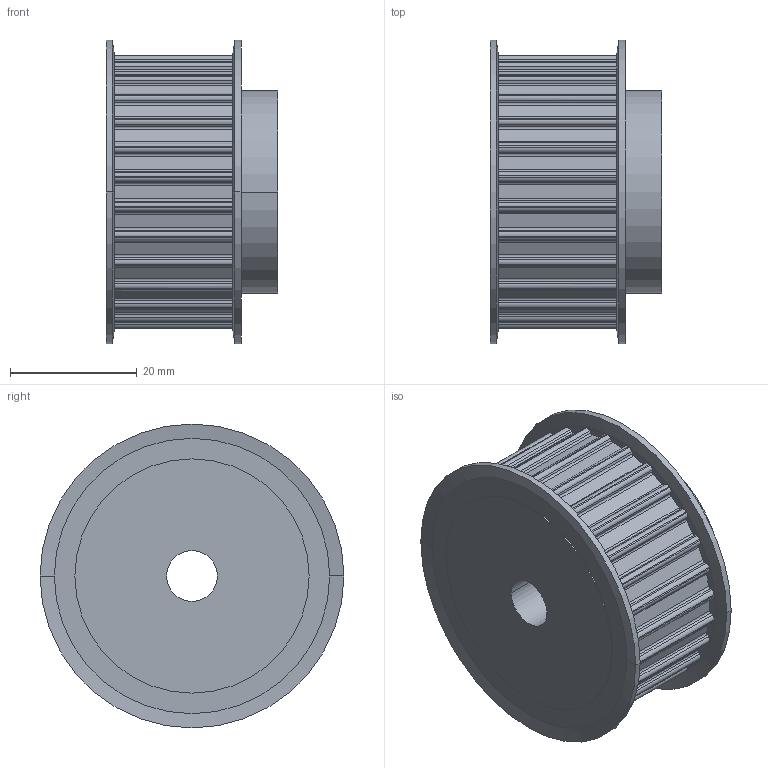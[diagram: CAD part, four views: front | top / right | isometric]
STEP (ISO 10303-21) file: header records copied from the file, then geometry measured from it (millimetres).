
FILE_DESCRIPTION( ( '' ), '1' );
FILE_NAME( 'C:/Users/Stangenbergd/Documents/CAD_Step/1/16632800.stp', '2021-10-19T09:36:33', ( '' ), ( '' ), ' ', ' ', ' ' );
FILE_SCHEMA( ( 'CONFIG_CONTROL_DESIGN' ) );
Length unit declared in the file: millimetre
Products named in the file (1): 1
Bounding box: 27.17 x 48 x 48 mm (x, y, z)
Volume: 33161.7 mm3; surface area: 9048.1 mm2
Topology: 1 solids, 1 shells, 251 faces, 724 edges, 480 vertices
Faces by surface type: cylinder 152, plane 91, cone 8
Entity records: 8414 total; most frequent: DIRECTION 1540, CARTESIAN_POINT 1456, ORIENTED_EDGE 1448, EDGE_CURVE 724, AXIS2_PLACEMENT_3D 564, VERTEX_POINT 480, LINE 412, VECTOR 412
